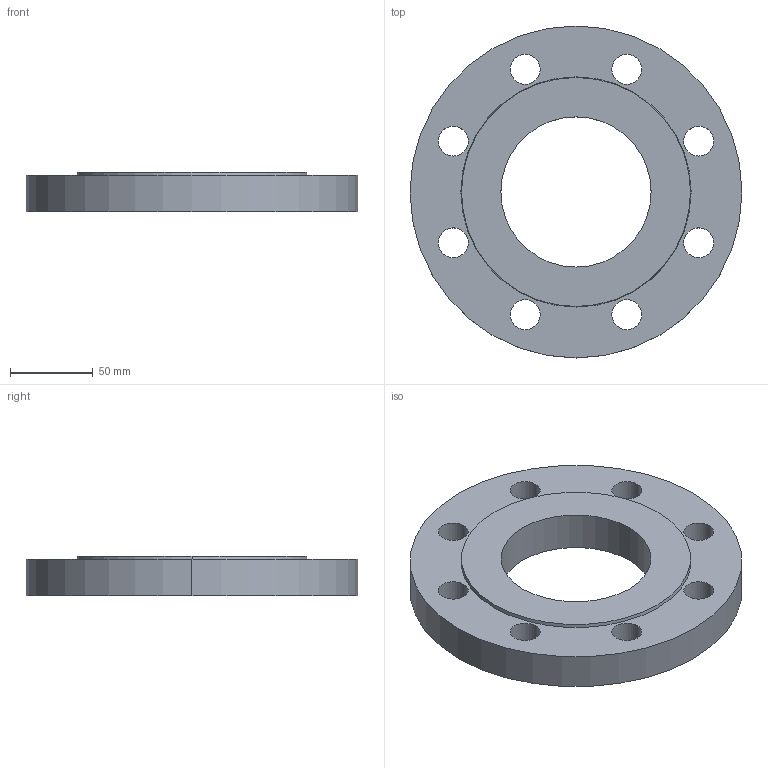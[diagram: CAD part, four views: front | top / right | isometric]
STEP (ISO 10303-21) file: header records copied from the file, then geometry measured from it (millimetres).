
FILE_DESCRIPTION (( 'STEP AP214' ), '1' );
FILE_NAME ('PN40 DN80 Type 01 - Type B Face.STEP', '2019-01-01T19:48:44', ( '' ), ( '' ), 'SwSTEP 2.0', 'SolidWorks 2019', '' );
FILE_SCHEMA (( 'AUTOMOTIVE_DESIGN' ));
Length unit declared in the file: millimetre
Products named in the file (1): PN40 DN80 Type 01 - Type B Face
Bounding box: 200 x 200 x 24 mm (x, y, z)
Volume: 522048.7 mm3; surface area: 77223.7 mm2
Topology: 1 solids, 1 shells, 25 faces, 66 edges, 44 vertices
Faces by surface type: cylinder 20, plane 3, cone 2
Entity records: 874 total; most frequent: DIRECTION 162, CARTESIAN_POINT 136, ORIENTED_EDGE 132, AXIS2_PLACEMENT_3D 70, EDGE_CURVE 66, CIRCLE 44, VERTEX_POINT 44, EDGE_LOOP 44
